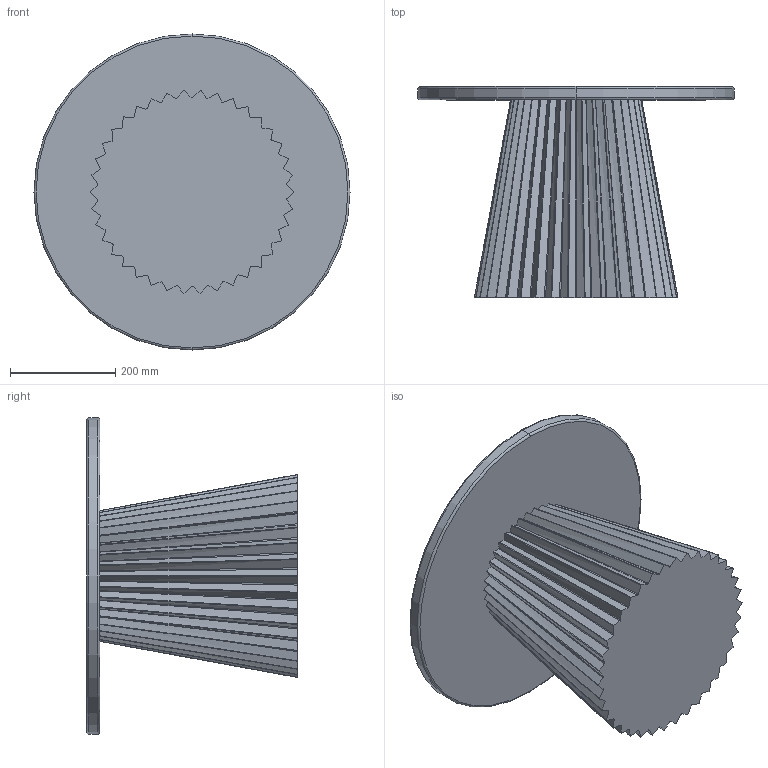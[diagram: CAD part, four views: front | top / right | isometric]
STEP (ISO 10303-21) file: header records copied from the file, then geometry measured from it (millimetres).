
FILE_DESCRIPTION (( 'STEP AP203' ), '1' );
FILE_NAME ('Flute table small (400Hx 600D.STEP', '2025-10-21T19:33:59', ( '' ), ( '' ), 'SwSTEP 2.0', 'SolidWorks 2024', '' );
FILE_SCHEMA (( 'CONFIG_CONTROL_DESIGN' ));
Length unit declared in the file: millimetre
Products named in the file (1): Flute table small (400Hx 600D
Bounding box: 600 x 400 x 600 mm (x, y, z)
Volume: 33623681.8 mm3; surface area: 1272086 mm2
Topology: 2 solids, 2 shells, 168 faces, 483 edges, 320 vertices
Faces by surface type: bspline 114, cone 39, torus 8, plane 5, cylinder 2
Entity records: 7786 total; most frequent: CARTESIAN_POINT 4076, ORIENTED_EDGE 966, EDGE_CURVE 483, DIRECTION 441, VERTEX_POINT 320, B_SPLINE_CURVE_WITH_KNOTS 240, EDGE_LOOP 169, ADVANCED_FACE 168
